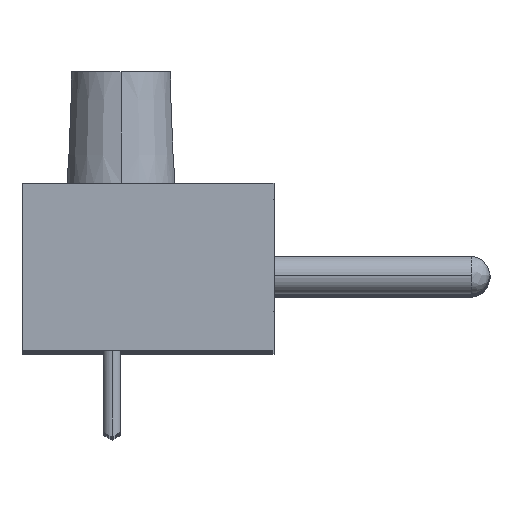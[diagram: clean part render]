
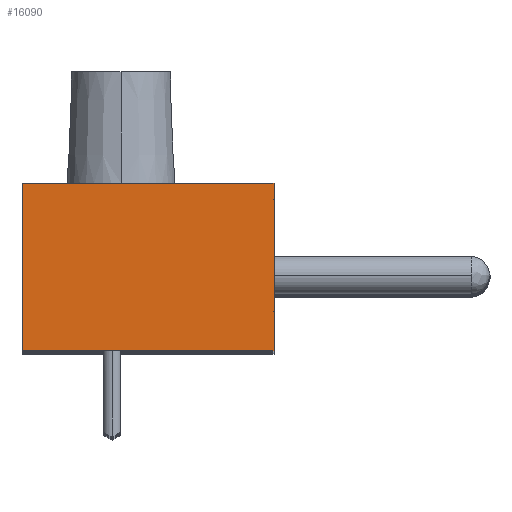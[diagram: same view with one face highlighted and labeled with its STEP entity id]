
A CAD part, top view. The second image highlights one B-rep face of the part: STEP entity #16090.
In plain terms, the highlighted planar face has unit normal (0, 0, 1).
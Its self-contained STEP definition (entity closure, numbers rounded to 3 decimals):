
#16017 = VERTEX_POINT ( 'NONE', #25974 ) ;
#16067 = EDGE_LOOP ( 'NONE', ( #16068, #16069, #16072, #16074 ) ) ;
#16068 = ORIENTED_EDGE ( 'NONE', *, *, #16081, .T. ) ;
#16069 = ORIENTED_EDGE ( 'NONE', *, *, #16070, .T. ) ;
#16070 = EDGE_CURVE ( 'NONE', #16017, #16071, #26148, .T. ) ;
#16071 = VERTEX_POINT ( 'NONE', #26141 ) ;
#16072 = ORIENTED_EDGE ( 'NONE', *, *, #16073, .T. ) ;
#16073 = EDGE_CURVE ( 'NONE', #16071, #57081, #26135, .T. ) ;
#16074 = ORIENTED_EDGE ( 'NONE', *, *, #57080, .T. ) ;
#16081 = EDGE_CURVE ( 'NONE', #57078, #16017, #26206, .T. ) ;
#16090 = ADVANCED_FACE ( 'NONE', ( #26200 ), #26281, .T. ) ;
#25974 = CARTESIAN_POINT ( 'NONE',  ( 7., 9.3, 0. ) ) ;
#26131 = DIRECTION ( 'NONE',  ( 0., -1., 0. ) ) ;
#26132 = VECTOR ( 'NONE', #26131, 1000. ) ;
#26134 = CARTESIAN_POINT ( 'NONE',  ( -7., 0., 0. ) ) ;
#26135 = LINE ( 'NONE', #26134, #26132 ) ;
#26141 = CARTESIAN_POINT ( 'NONE',  ( -7., 9.3, 0. ) ) ;
#26142 = DIRECTION ( 'NONE',  ( -1., 0., 0. ) ) ;
#26143 = VECTOR ( 'NONE', #26142, 1000. ) ;
#26145 = CARTESIAN_POINT ( 'NONE',  ( -7., 9.3, 0. ) ) ;
#26148 = LINE ( 'NONE', #26145, #26143 ) ;
#26200 = FACE_OUTER_BOUND ( 'NONE', #16067, .T. ) ;
#26202 = DIRECTION ( 'NONE',  ( 0., 1., 0. ) ) ;
#26203 = VECTOR ( 'NONE', #26202, 1000. ) ;
#26204 = CARTESIAN_POINT ( 'NONE',  ( 7., 9.3, 0. ) ) ;
#26206 = LINE ( 'NONE', #26204, #26203 ) ;
#26272 = DIRECTION ( 'NONE',  ( 1., 0., 0. ) ) ;
#26273 = DIRECTION ( 'NONE',  ( 0., 0., 1. ) ) ;
#26275 = CARTESIAN_POINT ( 'NONE',  ( -7., 9.3, 0. ) ) ;
#26277 = AXIS2_PLACEMENT_3D ( 'NONE', #26275, #26273, #26272 ) ;
#26281 = PLANE ( 'NONE',  #26277 ) ;
#46924 = CARTESIAN_POINT ( 'NONE',  ( -7., 0., 0. ) ) ;
#46925 = DIRECTION ( 'NONE',  ( 1., 0., 0. ) ) ;
#46926 = VECTOR ( 'NONE', #46925, 1000. ) ;
#46927 = CARTESIAN_POINT ( 'NONE',  ( -7., 0., 0. ) ) ;
#46928 = LINE ( 'NONE', #46927, #46926 ) ;
#46929 = CARTESIAN_POINT ( 'NONE',  ( 7., 0., 0. ) ) ;
#57078 = VERTEX_POINT ( 'NONE', #46929 ) ;
#57080 = EDGE_CURVE ( 'NONE', #57081, #57078, #46928, .T. ) ;
#57081 = VERTEX_POINT ( 'NONE', #46924 ) ;
